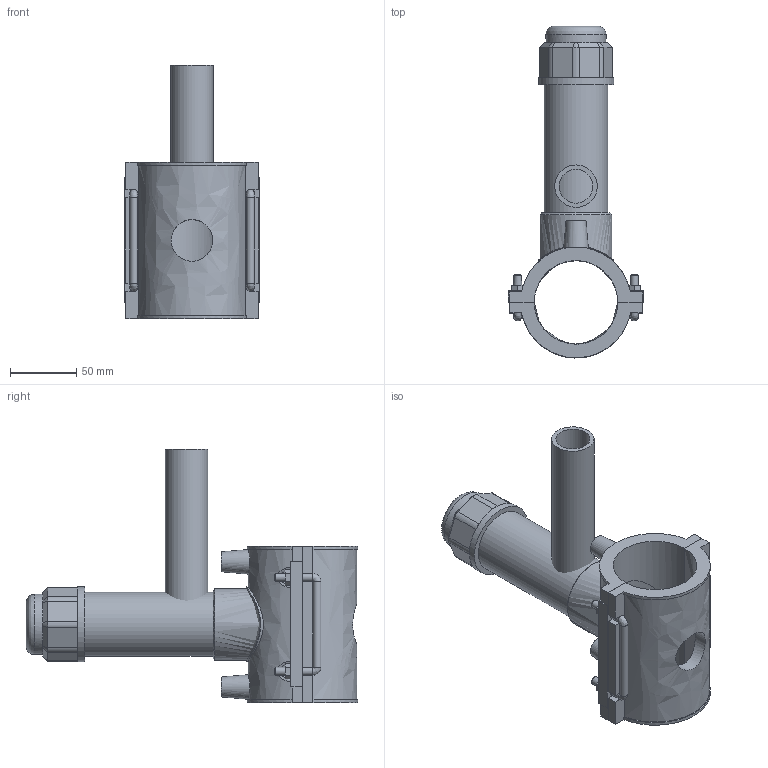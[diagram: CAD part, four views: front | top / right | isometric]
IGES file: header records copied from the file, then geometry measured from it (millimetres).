
Global section: file name: 4963P4063032; native system: Autodesk Inventor 2019; preprocessor: unknown; author: KIM; date: 20220317.112530; units: millimetre
Bounding box: 102 x 250.25 x 191 mm (x, y, z)
Volume: 531129.7 mm3; surface area: 156048.7 mm2
Topology: 3 solids, 3 shells, 186 faces, 485 edges, 312 vertices
Faces by surface type: bspline 186
